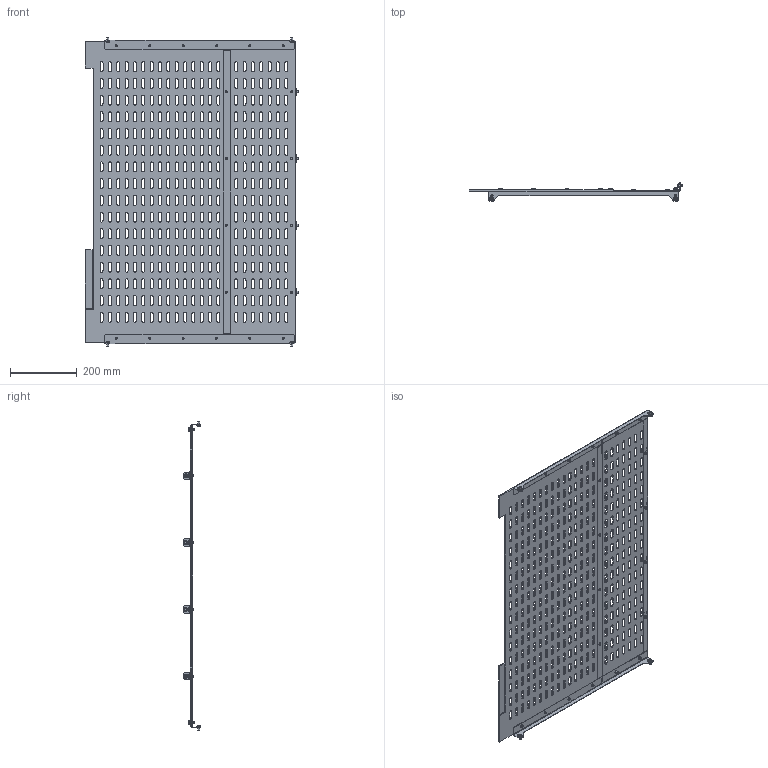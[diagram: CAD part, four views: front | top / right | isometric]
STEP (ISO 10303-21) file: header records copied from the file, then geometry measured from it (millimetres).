
FILE_DESCRIPTION (( 'STEP AP214' ), '1' );
FILE_NAME ('FO-00-3BGW-100-060 Êîìïëåêò ñåêöèîíèðîâàíèÿ 3b äëÿ ARMAT ACB òèïîðàçìåð G âûêàòíîãî èñïîëíåíèÿ 3II4P 1000õ600 â øêàô ãëóáèíîé 1000 ìì.STEP', '2025-08-21T12:52:02', ( '' ), ( '' ), 'SwSTEP 2.0', 'SolidWorks 2023', '' );
FILE_SCHEMA (( 'AUTOMOTIVE_DESIGN' ));
Length unit declared in the file: millimetre
Products named in the file (3): FO-00-3BGW-100-060 Комплект секционирования 3b для ARMAT ACB типоразмер G выкатного исполнения 3II4P 1000х600 в шкаф глубиной 1000 мм; 2хМ6х10x1000; Комплект секционирования 3b для ARMAT ACB типоразмер G выкатного исполнения 3II4P 1000х600 в шкаф глубиной 1000 мм
Assembly tree (3 placements, depth 2):
  FO-00-3BGW-100-060 Комплект секционирования 3b для ARMAT ACB типоразмер G выкатного исполнения 3II4P 1000х600 в шкаф глубиной 1000 мм
    Комплект секционирования 3b для ARMAT ACB типоразмер G выкатного исполнения 3II4P 1000х600 в шкаф глубиной 1000 мм
    2хМ6х10x1000  x2
Bounding box: 637.7 x 53.1 x 925 mm (x, y, z)
Volume: 1643922.7 mm3; surface area: 1088805.5 mm2
Topology: 5 solids, 25 shells, 2619 faces, 7239 edges, 4734 vertices
Faces by surface type: cylinder 1340, plane 1063, cone 104, torus 104, sphere 8
Entity records: 84292 total; most frequent: DIRECTION 15083, CARTESIAN_POINT 14450, ORIENTED_EDGE 14202, EDGE_CURVE 7101, AXIS2_PLACEMENT_3D 5447, VERTEX_POINT 4646, VECTOR 4189, LINE 4189
